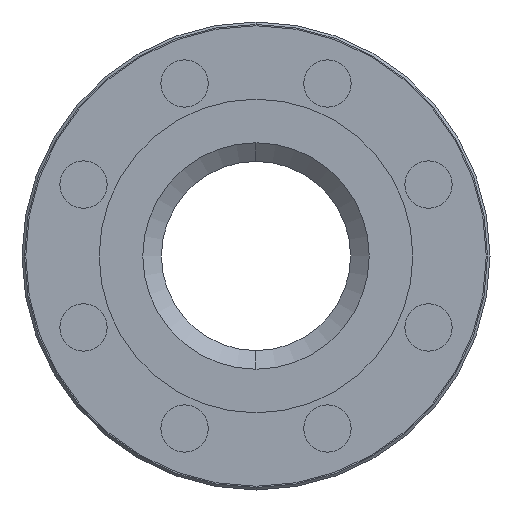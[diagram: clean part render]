
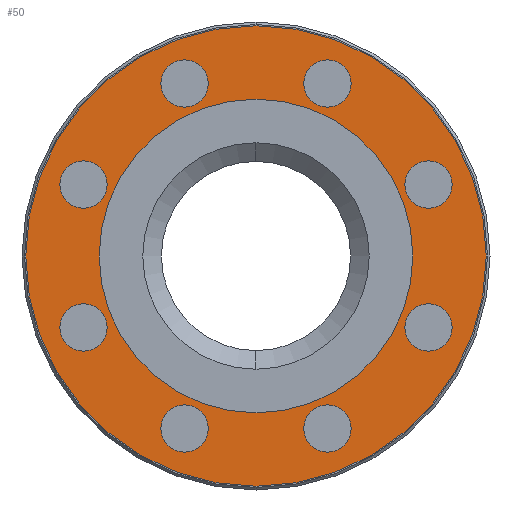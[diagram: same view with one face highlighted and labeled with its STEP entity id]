
A CAD part, left-side view. The second image highlights one B-rep face of the part: STEP entity #50.
In plain terms, the highlighted planar face has unit normal (-1, 0, 0).
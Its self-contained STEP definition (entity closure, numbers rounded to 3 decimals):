
#50=ADVANCED_FACE('',(#290,#291,#292,#293,#294,#295,#296,#297,#298,#299),#289,.F.);
#289=PLANE('',#1550);
#290=FACE_OUTER_BOUND('',#1551,.T.);
#291=FACE_BOUND('',#1552,.T.);
#292=FACE_BOUND('',#1553,.T.);
#293=FACE_BOUND('',#1554,.T.);
#294=FACE_BOUND('',#1555,.T.);
#295=FACE_BOUND('',#1556,.T.);
#296=FACE_BOUND('',#1557,.T.);
#297=FACE_BOUND('',#1558,.T.);
#298=FACE_BOUND('',#1559,.T.);
#299=FACE_BOUND('',#1560,.T.);
#1547=CARTESIAN_POINT('',(2.,-170.215,102.5));
#1548=DIRECTION('',(1.,0.,0.));
#1549=DIRECTION('',(0.,0.,-1.));
#1550=AXIS2_PLACEMENT_3D('',#1547,#1548,#1549);
#1551=EDGE_LOOP('',(#2668,#2669));
#1552=EDGE_LOOP('',(#2670,#2671));
#1553=EDGE_LOOP('',(#2672,#2673));
#1554=EDGE_LOOP('',(#2674,#2675));
#1555=EDGE_LOOP('',(#2676,#2677));
#1556=EDGE_LOOP('',(#2678,#2679));
#1557=EDGE_LOOP('',(#2680,#2681));
#1558=EDGE_LOOP('',(#2682,#2683));
#1559=EDGE_LOOP('',(#2684,#2685));
#1560=EDGE_LOOP('',(#2686,#2687));
#2668=ORIENTED_EDGE('',*,*,#3264,.T.);
#2669=ORIENTED_EDGE('',*,*,#3265,.T.);
#2670=ORIENTED_EDGE('',*,*,#3266,.F.);
#2671=ORIENTED_EDGE('',*,*,#3267,.F.);
#2672=ORIENTED_EDGE('',*,*,#3268,.F.);
#2673=ORIENTED_EDGE('',*,*,#3269,.F.);
#2674=ORIENTED_EDGE('',*,*,#3270,.F.);
#2675=ORIENTED_EDGE('',*,*,#3271,.F.);
#2676=ORIENTED_EDGE('',*,*,#3272,.F.);
#2677=ORIENTED_EDGE('',*,*,#3273,.F.);
#2678=ORIENTED_EDGE('',*,*,#3274,.F.);
#2679=ORIENTED_EDGE('',*,*,#3275,.F.);
#2680=ORIENTED_EDGE('',*,*,#3276,.F.);
#2681=ORIENTED_EDGE('',*,*,#3277,.F.);
#2682=ORIENTED_EDGE('',*,*,#3278,.F.);
#2683=ORIENTED_EDGE('',*,*,#3279,.F.);
#2684=ORIENTED_EDGE('',*,*,#3280,.F.);
#2685=ORIENTED_EDGE('',*,*,#3281,.F.);
#2686=ORIENTED_EDGE('',*,*,#3282,.F.);
#2687=ORIENTED_EDGE('',*,*,#3283,.F.);
#3264=EDGE_CURVE('',#3994,#3995,#3996,.T.);
#3265=EDGE_CURVE('',#3995,#3994,#4002,.T.);
#3266=EDGE_CURVE('',#4008,#4009,#4010,.T.);
#3267=EDGE_CURVE('',#4009,#4008,#4016,.T.);
#3268=EDGE_CURVE('',#4022,#4023,#4024,.T.);
#3269=EDGE_CURVE('',#4023,#4022,#4030,.T.);
#3270=EDGE_CURVE('',#4036,#4037,#4038,.T.);
#3271=EDGE_CURVE('',#4037,#4036,#4044,.T.);
#3272=EDGE_CURVE('',#4050,#4051,#4052,.T.);
#3273=EDGE_CURVE('',#4051,#4050,#4058,.T.);
#3274=EDGE_CURVE('',#4064,#4065,#4066,.T.);
#3275=EDGE_CURVE('',#4065,#4064,#4072,.T.);
#3276=EDGE_CURVE('',#4078,#4079,#4080,.T.);
#3277=EDGE_CURVE('',#4079,#4078,#4086,.T.);
#3278=EDGE_CURVE('',#4092,#4093,#4094,.T.);
#3279=EDGE_CURVE('',#4093,#4092,#4100,.T.);
#3280=EDGE_CURVE('',#4106,#4107,#4108,.T.);
#3281=EDGE_CURVE('',#4107,#4106,#4114,.T.);
#3282=EDGE_CURVE('',#4120,#4121,#4122,.T.);
#3283=EDGE_CURVE('',#4121,#4120,#4128,.T.);
#3994=VERTEX_POINT('',#5817);
#3995=VERTEX_POINT('',#5818);
#3996=CIRCLE('',#5822,92.5);
#4002=CIRCLE('',#5826,92.5);
#4008=VERTEX_POINT('',#5827);
#4009=VERTEX_POINT('',#5828);
#4010=CIRCLE('',#5832,9.5);
#4016=CIRCLE('',#5836,9.5);
#4022=VERTEX_POINT('',#5837);
#4023=VERTEX_POINT('',#5838);
#4024=CIRCLE('',#5842,9.5);
#4030=CIRCLE('',#5846,9.5);
#4036=VERTEX_POINT('',#5847);
#4037=VERTEX_POINT('',#5848);
#4038=CIRCLE('',#5852,9.5);
#4044=CIRCLE('',#5856,9.5);
#4050=VERTEX_POINT('',#5857);
#4051=VERTEX_POINT('',#5858);
#4052=CIRCLE('',#5862,9.5);
#4058=CIRCLE('',#5866,9.5);
#4064=VERTEX_POINT('',#5867);
#4065=VERTEX_POINT('',#5868);
#4066=CIRCLE('',#5872,9.5);
#4072=CIRCLE('',#5876,9.5);
#4078=VERTEX_POINT('',#5877);
#4079=VERTEX_POINT('',#5878);
#4080=CIRCLE('',#5882,9.5);
#4086=CIRCLE('',#5886,9.5);
#4092=VERTEX_POINT('',#5887);
#4093=VERTEX_POINT('',#5888);
#4094=CIRCLE('',#5892,9.5);
#4100=CIRCLE('',#5896,9.5);
#4106=VERTEX_POINT('',#5897);
#4107=VERTEX_POINT('',#5898);
#4108=CIRCLE('',#5902,63.);
#4114=CIRCLE('',#5906,63.);
#4120=VERTEX_POINT('',#5907);
#4121=VERTEX_POINT('',#5908);
#4122=CIRCLE('',#5912,9.5);
#4128=CIRCLE('',#5916,9.5);
#5817=CARTESIAN_POINT('',(2.,0.,92.5));
#5818=CARTESIAN_POINT('',(2.,0.,-92.5));
#5819=CARTESIAN_POINT('',(2.,0.,0.));
#5820=DIRECTION('',(-1.,0.,0.));
#5821=DIRECTION('',(0.,0.,1.));
#5822=AXIS2_PLACEMENT_3D('',#5819,#5820,#5821);
#5823=CARTESIAN_POINT('',(2.,0.,0.));
#5824=DIRECTION('',(-1.,0.,0.));
#5825=DIRECTION('',(0.,0.,1.));
#5826=AXIS2_PLACEMENT_3D('',#5823,#5824,#5825);
#5827=CARTESIAN_POINT('',(2.,69.291,38.201));
#5828=CARTESIAN_POINT('',(2.,69.291,19.201));
#5829=CARTESIAN_POINT('',(2.,69.291,28.701));
#5830=DIRECTION('',(-1.,0.,0.));
#5831=DIRECTION('',(0.,0.,-1.));
#5832=AXIS2_PLACEMENT_3D('',#5829,#5830,#5831);
#5833=CARTESIAN_POINT('',(2.,69.291,28.701));
#5834=DIRECTION('',(-1.,0.,0.));
#5835=DIRECTION('',(0.,0.,-1.));
#5836=AXIS2_PLACEMENT_3D('',#5833,#5834,#5835);
#5837=CARTESIAN_POINT('',(2.,69.291,-19.201));
#5838=CARTESIAN_POINT('',(2.,69.291,-38.201));
#5839=CARTESIAN_POINT('',(2.,69.291,-28.701));
#5840=DIRECTION('',(-1.,0.,0.));
#5841=DIRECTION('',(0.,0.,-1.));
#5842=AXIS2_PLACEMENT_3D('',#5839,#5840,#5841);
#5843=CARTESIAN_POINT('',(2.,69.291,-28.701));
#5844=DIRECTION('',(-1.,0.,0.));
#5845=DIRECTION('',(0.,0.,-1.));
#5846=AXIS2_PLACEMENT_3D('',#5843,#5844,#5845);
#5847=CARTESIAN_POINT('',(2.,28.701,-59.791));
#5848=CARTESIAN_POINT('',(2.,28.701,-78.791));
#5849=CARTESIAN_POINT('',(2.,28.701,-69.291));
#5850=DIRECTION('',(-1.,0.,0.));
#5851=DIRECTION('',(0.,0.,-1.));
#5852=AXIS2_PLACEMENT_3D('',#5849,#5850,#5851);
#5853=CARTESIAN_POINT('',(2.,28.701,-69.291));
#5854=DIRECTION('',(-1.,0.,0.));
#5855=DIRECTION('',(0.,0.,-1.));
#5856=AXIS2_PLACEMENT_3D('',#5853,#5854,#5855);
#5857=CARTESIAN_POINT('',(2.,-28.701,-59.791));
#5858=CARTESIAN_POINT('',(2.,-28.701,-78.791));
#5859=CARTESIAN_POINT('',(2.,-28.701,-69.291));
#5860=DIRECTION('',(-1.,0.,0.));
#5861=DIRECTION('',(0.,0.,-1.));
#5862=AXIS2_PLACEMENT_3D('',#5859,#5860,#5861);
#5863=CARTESIAN_POINT('',(2.,-28.701,-69.291));
#5864=DIRECTION('',(-1.,0.,0.));
#5865=DIRECTION('',(0.,0.,-1.));
#5866=AXIS2_PLACEMENT_3D('',#5863,#5864,#5865);
#5867=CARTESIAN_POINT('',(2.,-69.291,-19.201));
#5868=CARTESIAN_POINT('',(2.,-69.291,-38.201));
#5869=CARTESIAN_POINT('',(2.,-69.291,-28.701));
#5870=DIRECTION('',(-1.,0.,0.));
#5871=DIRECTION('',(0.,0.,-1.));
#5872=AXIS2_PLACEMENT_3D('',#5869,#5870,#5871);
#5873=CARTESIAN_POINT('',(2.,-69.291,-28.701));
#5874=DIRECTION('',(-1.,0.,0.));
#5875=DIRECTION('',(0.,0.,-1.));
#5876=AXIS2_PLACEMENT_3D('',#5873,#5874,#5875);
#5877=CARTESIAN_POINT('',(2.,-69.291,38.201));
#5878=CARTESIAN_POINT('',(2.,-69.291,19.201));
#5879=CARTESIAN_POINT('',(2.,-69.291,28.701));
#5880=DIRECTION('',(-1.,0.,0.));
#5881=DIRECTION('',(0.,0.,-1.));
#5882=AXIS2_PLACEMENT_3D('',#5879,#5880,#5881);
#5883=CARTESIAN_POINT('',(2.,-69.291,28.701));
#5884=DIRECTION('',(-1.,0.,0.));
#5885=DIRECTION('',(0.,0.,-1.));
#5886=AXIS2_PLACEMENT_3D('',#5883,#5884,#5885);
#5887=CARTESIAN_POINT('',(2.,-28.701,78.791));
#5888=CARTESIAN_POINT('',(2.,-28.701,59.791));
#5889=CARTESIAN_POINT('',(2.,-28.701,69.291));
#5890=DIRECTION('',(-1.,0.,0.));
#5891=DIRECTION('',(0.,0.,-1.));
#5892=AXIS2_PLACEMENT_3D('',#5889,#5890,#5891);
#5893=CARTESIAN_POINT('',(2.,-28.701,69.291));
#5894=DIRECTION('',(-1.,0.,0.));
#5895=DIRECTION('',(0.,0.,-1.));
#5896=AXIS2_PLACEMENT_3D('',#5893,#5894,#5895);
#5897=CARTESIAN_POINT('',(2.,0.,-63.));
#5898=CARTESIAN_POINT('',(2.,0.,63.));
#5899=CARTESIAN_POINT('',(2.,0.,0.));
#5900=DIRECTION('',(-1.,0.,0.));
#5901=DIRECTION('',(0.,0.,1.));
#5902=AXIS2_PLACEMENT_3D('',#5899,#5900,#5901);
#5903=CARTESIAN_POINT('',(2.,0.,0.));
#5904=DIRECTION('',(-1.,0.,0.));
#5905=DIRECTION('',(0.,0.,1.));
#5906=AXIS2_PLACEMENT_3D('',#5903,#5904,#5905);
#5907=CARTESIAN_POINT('',(2.,28.701,78.791));
#5908=CARTESIAN_POINT('',(2.,28.701,59.791));
#5909=CARTESIAN_POINT('',(2.,28.701,69.291));
#5910=DIRECTION('',(-1.,0.,0.));
#5911=DIRECTION('',(0.,0.,-1.));
#5912=AXIS2_PLACEMENT_3D('',#5909,#5910,#5911);
#5913=CARTESIAN_POINT('',(2.,28.701,69.291));
#5914=DIRECTION('',(-1.,0.,0.));
#5915=DIRECTION('',(0.,0.,-1.));
#5916=AXIS2_PLACEMENT_3D('',#5913,#5914,#5915);
